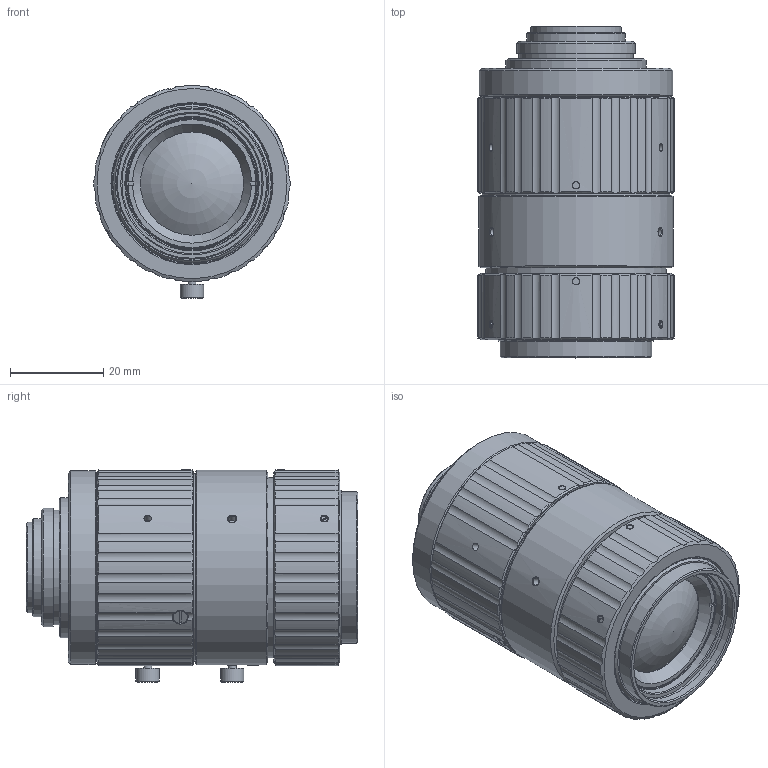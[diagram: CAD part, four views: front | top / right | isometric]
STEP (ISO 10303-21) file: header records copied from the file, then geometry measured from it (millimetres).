
FILE_DESCRIPTION(/* description */ ('Unknown'),/* implementation_level */ '2;1');
FILE_NAME(/* name */ 'V5024-MPZ_210401',/* time_stamp */ '2021-04-01T10:37:58+09:00',/* author */ ('Unknown'),/* organization */ ('Unknown'),/* preprocessor_version */ 'ST-DEVELOPER v16.7',/* originating_system */ 'DEX',/* authorisation */ $);
FILE_SCHEMA (('AUTOMOTIVE_DESIGN { 1 0 10303 214 3 1 1 }','AUTOMOTIVE_DESIGN {1 0 10303 214 3 1 1}'));
Length unit declared in the file: millimetre
Products named in the file (3): V5024-MPZ_210401; V5024-MPZ_Infinity; V5024-MPZ_Mechnical limit
Assembly tree (2 placements, depth 2):
  V5024-MPZ_210401
    V5024-MPZ_Infinity
    V5024-MPZ_Mechnical limit
Bounding box: 42 x 71.04 x 45.6 mm (x, y, z)
Surface area: 28689.4 mm2
Topology: 2 solids, 9 shells, 806 faces, 1993 edges, 1292 vertices
Faces by surface type: cylinder 331, plane 289, cone 178, torus 6, sphere 2
Full cylindrical faces by diameter (mm): 1.5 x4, 1.567 x8, 1.7 x4, 2 x2, 2.5 x2, 2.8 x2, 3 x8, 3.4 x2, 3.5 x6, 4.999 x4, 16.599 x2, 18.1 x2, 19.4 x2, 20.999 x4, 22.099 x2, 22.999 x2, 23.1 x2, 24.537 x2, 25.399 x2, 28.399 x2, 29.999 x2, 30 x2, 30.5 x2, 31 x1, 32.399 x2, 32.999 x1, 34.299 x1, 37.999 x2, 38.599 x2, 40.099 x4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
Entity records: 28689 total; most frequent: CARTESIAN_POINT 5191, DIRECTION 3626, ORIENTED_EDGE 3500, EDGE_CURVE 1750, AXIS2_PLACEMENT_3D 1429, VERTEX_POINT 1218, FACE_BOUND 1072, EDGE_LOOP 1070
